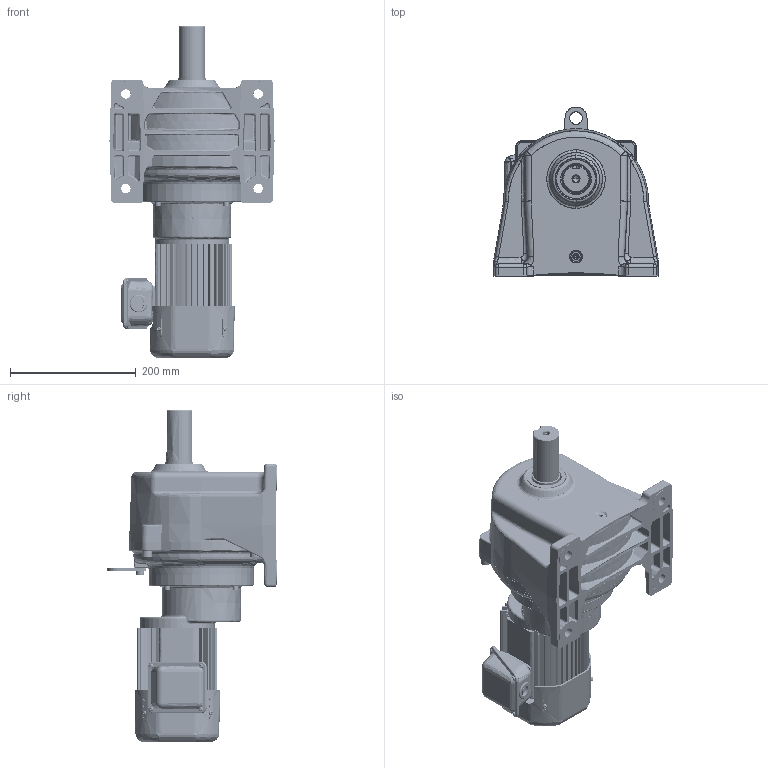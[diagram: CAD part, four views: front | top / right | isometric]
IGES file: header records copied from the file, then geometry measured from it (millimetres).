
Start section: SolidWorks IGES file using analytic representation for surfaces
Global section: file name: \\100.100.100.8\1_共有作業フォルダ\1-5_３Ｄデータ\solidworks\personal-folder\H.Nagayama\SGP1外形\P1(3D)\igs\TML2-04-(300~450).IGS; native system: SolidWorks 2018; preprocessor: SolidWorks 2018; author: sigma-giken; date: 200612.111311; units: millimetre
Bounding box: 262 x 269.5 x 527 mm (x, y, z)
Surface area: 797817.8 mm2 (no closed solid volume)
Topology: 0 solids, 0 shells, 2300 faces, 29750 edges, 29697 vertices
Faces by surface type: bspline 1273, revolution 1027
